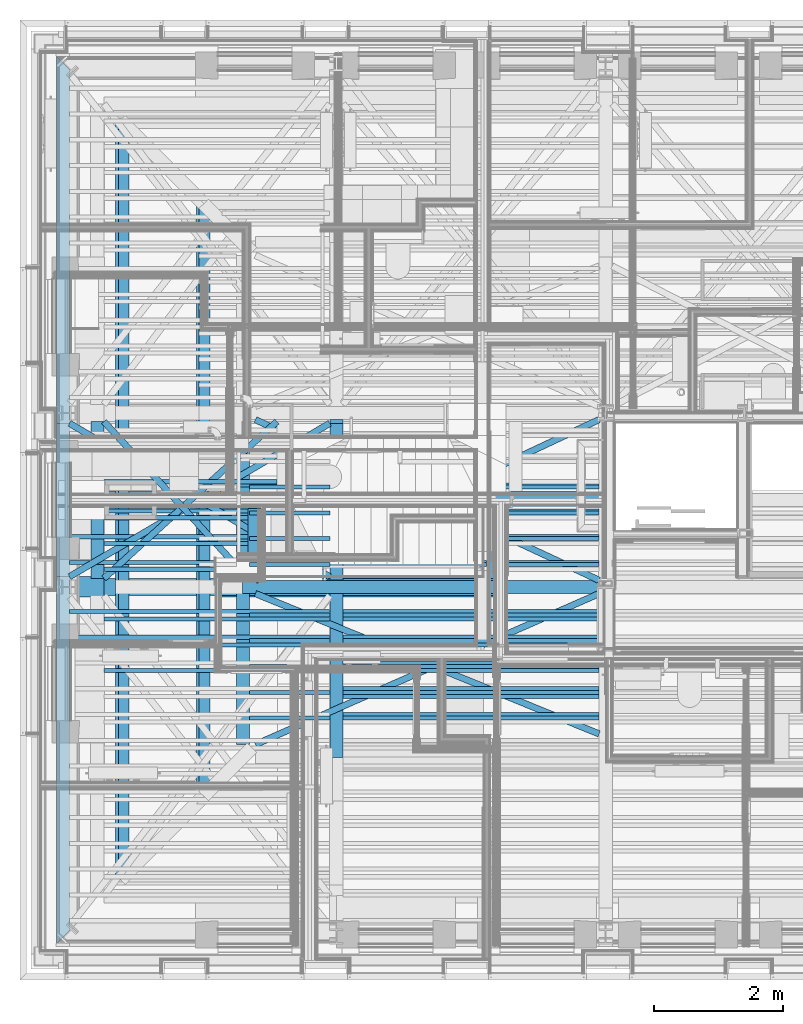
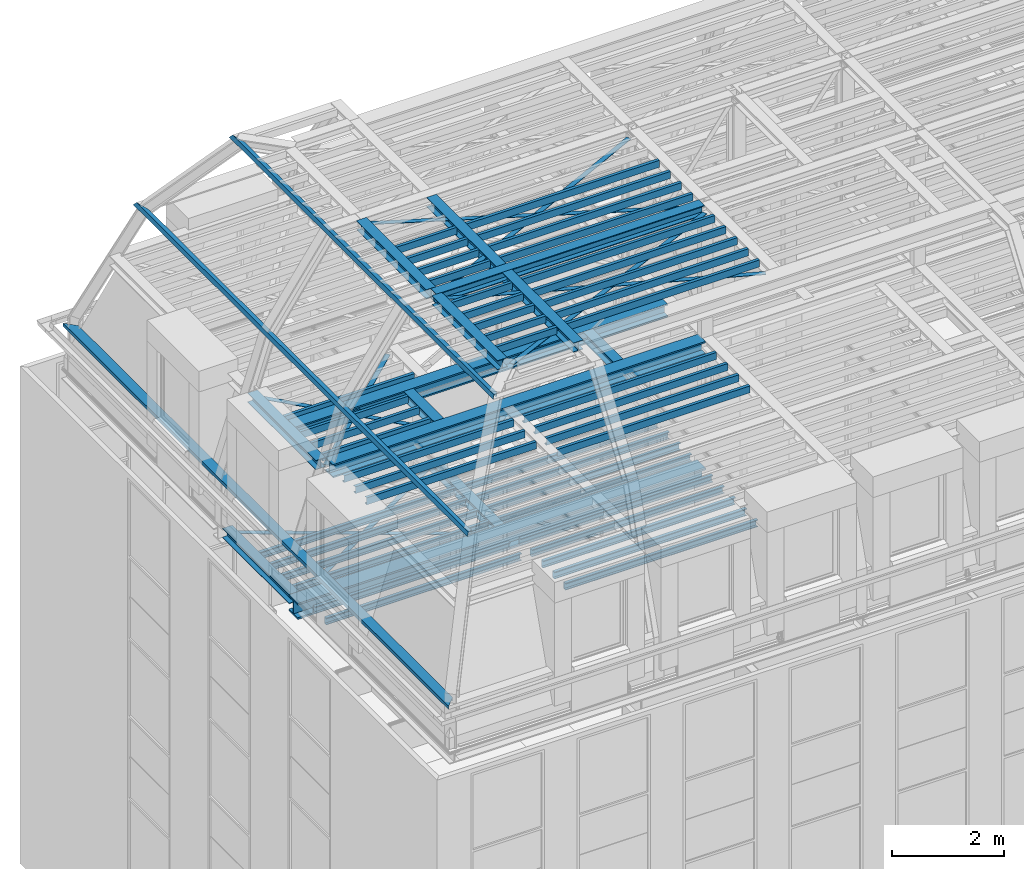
# One storey, part 4 of 183: 68 beams.
"""IFC2X3 building model written with IfcOpenShell, lengths in metres."""

from ifc_helpers import new_model, entity, si_unit, converted_unit, derived_unit, money_unit, direction, frame, frame_2d, origin_with_axes, place, context, subcontext, project, spatial, polyline, rectangle, outline, extrude, clip, halfspace, material, type_object, element, save


model = new_model("IFC2X3")

# Units and contexts
model_context = context("Model", 3, precision=1e-05, world=origin_with_axes(), true_north=direction((0.0, 1.0)))
body_context = subcontext(model_context, "Body", "Model", "MODEL_VIEW", scale=1.0)
ifc_project = project(units=[si_unit("LENGTHUNIT", "METRE"), si_unit("AREAUNIT", "SQUARE_METRE"), si_unit("VOLUMEUNIT", "CUBIC_METRE"), si_unit("ABSORBEDDOSEUNIT", "GRAY"), si_unit("AMOUNTOFSUBSTANCEUNIT", "MOLE"), si_unit("DOSEEQUIVALENTUNIT", "SIEVERT"), si_unit("ELECTRICCAPACITANCEUNIT", "FARAD"), si_unit("ELECTRICCHARGEUNIT", "COULOMB"), si_unit("ELECTRICCONDUCTANCEUNIT", "SIEMENS"), si_unit("ELECTRICCURRENTUNIT", "AMPERE"), si_unit("ELECTRICRESISTANCEUNIT", "OHM"), si_unit("ELECTRICVOLTAGEUNIT", "VOLT"), si_unit("ENERGYUNIT", "JOULE"), si_unit("FORCEUNIT", "NEWTON"), si_unit("FREQUENCYUNIT", "HERTZ"), si_unit("ILLUMINANCEUNIT", "LUX"), si_unit("INDUCTANCEUNIT", "HENRY"), si_unit("LUMINOUSFLUXUNIT", "LUMEN"), si_unit("LUMINOUSINTENSITYUNIT", "CANDELA"), si_unit("MAGNETICFLUXDENSITYUNIT", "TESLA"), si_unit("MAGNETICFLUXUNIT", "WEBER"), si_unit("MASSUNIT", "GRAM"), converted_unit("PLANEANGLEUNIT", "degree", entity("IfcReal", 0.0174532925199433), si_unit("PLANEANGLEUNIT", "RADIAN"), dimensions=[0, 0, 0, 0, 0, 0, 0]), si_unit("POWERUNIT", "WATT"), si_unit("PRESSUREUNIT", "PASCAL"), si_unit("RADIOACTIVITYUNIT", "BECQUEREL"), si_unit("SOLIDANGLEUNIT", "STERADIAN"), si_unit("THERMODYNAMICTEMPERATUREUNIT", "KELVIN"), si_unit("TIMEUNIT", "SECOND"), derived_unit("ACCELERATIONUNIT", [(si_unit("LENGTHUNIT", "METRE"), 1), (si_unit("TIMEUNIT", "SECOND"), -2)]), derived_unit("ANGULARVELOCITYUNIT", [(converted_unit("PLANEANGLEUNIT", "degree", entity("IfcReal", 0.0174532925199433), si_unit("PLANEANGLEUNIT", "RADIAN"), dimensions=[0, 0, 0, 0, 0, 0, 0]), 1), (si_unit("TIMEUNIT", "SECOND"), -1)]), derived_unit("CURVATUREUNIT", [(converted_unit("PLANEANGLEUNIT", "degree", entity("IfcReal", 0.0174532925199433), si_unit("PLANEANGLEUNIT", "RADIAN"), dimensions=[0, 0, 0, 0, 0, 0, 0]), 1), (si_unit("LENGTHUNIT", "METRE"), -1)]), derived_unit("DYNAMICVISCOSITYUNIT", [(si_unit("PRESSUREUNIT", "PASCAL"), 1), (si_unit("TIMEUNIT", "SECOND"), 1)]), derived_unit("HEATFLUXDENSITYUNIT", [(si_unit("POWERUNIT", "WATT"), 1), (si_unit("LENGTHUNIT", "METRE"), -2)]), derived_unit("HEATINGVALUEUNIT", [(si_unit("ENERGYUNIT", "JOULE"), 1), (si_unit("MASSUNIT", "GRAM"), -1)]), derived_unit("INTEGERCOUNTRATEUNIT", [(si_unit("TIMEUNIT", "SECOND"), -1)]), derived_unit("IONCONCENTRATIONUNIT", [(si_unit("MASSUNIT", "GRAM"), 1), (si_unit("VOLUMEUNIT", "CUBIC_METRE"), -1)]), derived_unit("ISOTHERMALMOISTURECAPACITYUNIT", [(si_unit("VOLUMEUNIT", "CUBIC_METRE"), 1), (si_unit("MASSUNIT", "GRAM"), -1)]), derived_unit("KINEMATICVISCOSITYUNIT", [(si_unit("AREAUNIT", "SQUARE_METRE"), 1), (si_unit("TIMEUNIT", "SECOND"), -1)]), derived_unit("LINEARFORCEUNIT", [(si_unit("FORCEUNIT", "NEWTON"), 1), (si_unit("LENGTHUNIT", "METRE"), -1)]), derived_unit("LINEARMOMENTUNIT", [(si_unit("FORCEUNIT", "NEWTON"), 1), (si_unit("LENGTHUNIT", "METRE"), -1)]), derived_unit("LINEARSTIFFNESSUNIT", [(si_unit("FORCEUNIT", "NEWTON"), 1), (si_unit("LENGTHUNIT", "METRE"), -1)]), derived_unit("LINEARVELOCITYUNIT", [(si_unit("LENGTHUNIT", "METRE"), 1), (si_unit("TIMEUNIT", "SECOND"), -1)]), derived_unit("LUMINOUSINTENSITYDISTRIBUTIONUNIT", [(si_unit("LUMINOUSINTENSITYUNIT", "CANDELA"), 1), (si_unit("LUMINOUSFLUXUNIT", "LUMEN"), -1)]), derived_unit("MASSDENSITYUNIT", [(si_unit("MASSUNIT", "GRAM"), 1), (si_unit("VOLUMEUNIT", "CUBIC_METRE"), -1)]), derived_unit("MASSFLOWRATEUNIT", [(si_unit("MASSUNIT", "GRAM"), 1), (si_unit("TIMEUNIT", "SECOND"), -1)]), derived_unit("MASSPERLENGTHUNIT", [(si_unit("MASSUNIT", "GRAM"), 1), (si_unit("LENGTHUNIT", "METRE"), -1)]), derived_unit("MODULUSOFELASTICITYUNIT", [(si_unit("FORCEUNIT", "NEWTON"), 1), (si_unit("AREAUNIT", "SQUARE_METRE"), -1)]), derived_unit("MODULUSOFLINEARSUBGRADEREACTIONUNIT", [(si_unit("FORCEUNIT", "NEWTON"), 1), (si_unit("LENGTHUNIT", "METRE"), -2)]), derived_unit("MODULUSOFROTATIONALSUBGRADEREACTIONUNIT", [(si_unit("FORCEUNIT", "NEWTON"), 1), (si_unit("LENGTHUNIT", "METRE"), 1)]), derived_unit("MODULUSOFSUBGRADEREACTIONUNIT", [(si_unit("FORCEUNIT", "NEWTON"), 1), (si_unit("VOLUMEUNIT", "CUBIC_METRE"), -1)]), derived_unit("MOISTUREDIFFUSIVITYUNIT", [(si_unit("VOLUMEUNIT", "CUBIC_METRE"), 1), (si_unit("TIMEUNIT", "SECOND"), -1)]), derived_unit("MOLECULARWEIGHTUNIT", [(si_unit("MASSUNIT", "GRAM"), 1), (si_unit("AMOUNTOFSUBSTANCEUNIT", "MOLE"), -1)]), derived_unit("PLANARFORCEUNIT", [(si_unit("FORCEUNIT", "NEWTON"), 1), (si_unit("LENGTHUNIT", "METRE"), -2)]), derived_unit("ROTATIONALFREQUENCYUNIT", [(si_unit("TIMEUNIT", "SECOND"), -1)]), derived_unit("ROTATIONALMASSUNIT", [(si_unit("MASSUNIT", "GRAM"), 1), (si_unit("LENGTHUNIT", "METRE"), 2)]), derived_unit("ROTATIONALSTIFFNESSUNIT", [(si_unit("FORCEUNIT", "NEWTON"), 1), (si_unit("LENGTHUNIT", "METRE"), 1), (converted_unit("PLANEANGLEUNIT", "degree", entity("IfcReal", 0.0174532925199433), si_unit("PLANEANGLEUNIT", "RADIAN"), dimensions=[0, 0, 0, 0, 0, 0, 0]), -1)]), derived_unit("SECTIONAREAINTEGRALUNIT", [(si_unit("LENGTHUNIT", "METRE"), 5)]), derived_unit("SECTIONMODULUSUNIT", [(si_unit("LENGTHUNIT", "METRE"), 3)]), derived_unit("SHEARMODULUSUNIT", [(si_unit("FORCEUNIT", "NEWTON"), 1), (si_unit("AREAUNIT", "SQUARE_METRE"), -1)]), derived_unit("SOUNDPOWERUNIT", [(si_unit("ENERGYUNIT", "JOULE"), 1), (si_unit("TIMEUNIT", "SECOND"), -1)]), derived_unit("SPECIFICHEATCAPACITYUNIT", [(si_unit("FORCEUNIT", "NEWTON"), 1), (si_unit("MASSUNIT", "GRAM"), -1), (si_unit("THERMODYNAMICTEMPERATUREUNIT", "KELVIN"), -1)]), derived_unit("TEMPERATUREGRADIENTUNIT", [(si_unit("THERMODYNAMICTEMPERATUREUNIT", "KELVIN"), 1), (si_unit("LENGTHUNIT", "METRE"), -1)]), derived_unit("THERMALADMITTANCEUNIT", [(si_unit("POWERUNIT", "WATT"), 1), (si_unit("AREAUNIT", "SQUARE_METRE"), -1), (si_unit("THERMODYNAMICTEMPERATUREUNIT", "KELVIN"), -1)]), derived_unit("THERMALCONDUCTANCEUNIT", [(si_unit("POWERUNIT", "WATT"), 1), (si_unit("LENGTHUNIT", "METRE"), -1), (si_unit("THERMODYNAMICTEMPERATUREUNIT", "KELVIN"), -1)]), derived_unit("THERMALEXPANSIONCOEFFICIENTUNIT", [(si_unit("THERMODYNAMICTEMPERATUREUNIT", "KELVIN"), -1)]), derived_unit("THERMALRESISTANCEUNIT", [(si_unit("AREAUNIT", "SQUARE_METRE"), 1), (si_unit("POWERUNIT", "WATT"), -1)]), derived_unit("THERMALTRANSMITTANCEUNIT", [(si_unit("POWERUNIT", "WATT"), 1), (si_unit("AREAUNIT", "SQUARE_METRE"), -1), (si_unit("THERMODYNAMICTEMPERATUREUNIT", "KELVIN"), -1)]), derived_unit("TORQUEUNIT", [(si_unit("FORCEUNIT", "NEWTON"), 1), (si_unit("LENGTHUNIT", "METRE"), 1)]), derived_unit("VAPORPERMEABILITYUNIT", [(si_unit("MASSUNIT", "GRAM"), 1), (si_unit("TIMEUNIT", "SECOND"), -1)]), derived_unit("VOLUMETRICFLOWRATEUNIT", [(si_unit("VOLUMEUNIT", "CUBIC_METRE"), 1), (si_unit("TIMEUNIT", "SECOND"), -1)]), derived_unit("WARPINGCONSTANTUNIT", [(si_unit("LENGTHUNIT", "METRE"), 6)]), derived_unit("WARPINGMOMENTUNIT", [(si_unit("FORCEUNIT", "NEWTON"), 1), (si_unit("LENGTHUNIT", "METRE"), 2)]), money_unit("GBP")], contexts=[model_context])

# Site, building, storey
site_placement = place(None, origin_with_axes())
site = spatial("IfcSite", under=ifc_project, at=site_placement, Name="Site", CompositionType="ELEMENT")
building_placement = place(site_placement, origin_with_axes())
building = spatial("IfcBuilding", under=site, at=building_placement, Name="Building01", CompositionType="ELEMENT")
storey_placement = place(building_placement, frame((0.0, 0.0, 5.15), z_axis=(0.0, 0.0, 1.0), x_axis=(1.0, 0.0, 0.0)))
storey = spatial("IfcBuildingStorey", under=building, at=storey_placement, Name="1F", CompositionType="ELEMENT", Elevation=5.15)

# Beams
ifc_material = material(Name="A_BSUK_Beams_Steel")
beam_type_1 = type_object("IfcBeamType", Name="A-Beams-Steel", PredefinedType="BEAM")
beam_1_placement = place(storey_placement, frame((0.56275, 8.6408, 9.5268), z_axis=(0.0, -1.0, 0.0), x_axis=(1.0, 0.0, 0.0)))
element("IfcBeam", 1, at=beam_1_placement, inside=storey, type_object=beam_type_1, material=ifc_material, Name="4F", ObjectType="A-Beams-Steel", context=body_context, shape_type="SweptSolid", body=[
    extrude(outline(polyline([(0.2036, 0.0), (0.2036, 0.011), (0.1054, 0.011), (0.1054, 0.1922), (0.2036, 0.1922), (0.2036, 0.2032), (0.0, 0.2032), (0.0, 0.1922), (0.0982, 0.1922), (0.0982, 0.011), (0.0, 0.011), (0.0, 0.0), (0.2036, 0.0)])), origin_with_axes(), (0.0, 0.0, 1.0), 2.3816),
])
beam_2_placement = place(storey_placement, frame((0.56, 5.9408, 9.3775), z_axis=(1.0, 0.0, 0.0), x_axis=(0.0, 1.0, 0.0)))
element("IfcBeam", 2, at=beam_2_placement, inside=storey, type_object=beam_type_1, material=ifc_material, Name="4F", ObjectType="A-Beams-Steel", context=body_context, shape_type="SweptSolid", body=[
    extrude(outline(polyline([(0.3184, 0.0), (0.3184, 0.0377), (0.1707, 0.0377), (0.1707, 0.3148), (0.3184, 0.3148), (0.3184, 0.3525), (0.0, 0.3525), (0.0, 0.3148), (0.1477, 0.3148), (0.1477, 0.0377), (0.0, 0.0377), (0.0, 0.0), (0.3184, 0.0)])), origin_with_axes(), (0.0, 0.0, 1.0), 8.42545),
])
beam_3_placement = place(storey_placement, frame((4.8082, 8.6408, 9.5268), z_axis=(0.0, -1.0, 0.0), x_axis=(1.0, 0.0, 0.0)))
element("IfcBeam", 3, at=beam_3_placement, inside=storey, type_object=beam_type_1, material=ifc_material, Name="4F", ObjectType="A-Beams-Steel", context=body_context, shape_type="SweptSolid", body=[
    extrude(outline(polyline([(0.2036, 0.0), (0.2036, 0.011), (0.1054, 0.011), (0.1054, 0.1922), (0.2036, 0.1922), (0.2036, 0.2032), (0.0, 0.2032), (0.0, 0.1922), (0.0982, 0.1922), (0.0982, 0.011), (0.0, 0.011), (0.0, 0.0), (0.2036, 0.0)])), origin_with_axes(), (0.0, 0.0, 1.0), 2.3816),
])
beam_4_placement = place(storey_placement, frame((1.0982, 8.667427, 12.2768), z_axis=(0.0, -1.0, 0.0), x_axis=(1.0, 0.0, 0.0)))
element("IfcBeam", 4, at=beam_4_placement, inside=storey, type_object=beam_type_1, material=ifc_material, Name="5F", ObjectType="A-Beams-Steel", context=body_context, shape_type="SweptSolid", body=[
    extrude(outline(polyline([(0.2036, 0.0), (0.2036, 0.011), (0.1054, 0.011), (0.1054, 0.1922), (0.2036, 0.1922), (0.2036, 0.2032), (0.0, 0.2032), (0.0, 0.1922), (0.0982, 0.1922), (0.0982, 0.011), (0.0, 0.011), (0.0, 0.0), (0.2036, 0.0)])), origin_with_axes(), (0.0, 0.0, 1.0), 2.4348),
])
for number, where, z_axis, x_axis, name in (
    (5, (3.5382, 7.3174, 12.2768), (0.0, -1.0, 0.0), (1.0, 0.0, 0.0), "5F"),
    (6, (7.2382, 7.3174, 12.2768), (0.0, -1.0, 0.0), (1.0, 0.0, 0.0), "5F"),
):
    element("IfcBeam", number, at=place(storey_placement, frame(where, z_axis=z_axis, x_axis=x_axis)), inside=storey, type_object=beam_type_1, material=ifc_material, Name=name, ObjectType="A-Beams-Steel", context=body_context, shape_type="SweptSolid", body=[
        extrude(outline(polyline([(0.2036, 0.0), (0.2036, 0.011), (0.1054, 0.011), (0.1054, 0.1922), (0.2036, 0.1922), (0.2036, 0.2032), (0.0, 0.2032), (0.0, 0.1922), (0.0982, 0.1922), (0.0982, 0.011), (0.0, 0.011), (0.0, 0.0), (0.2036, 0.0)])), origin_with_axes(), (0.0, 0.0, 1.0), 1.084773),
    ])
for number, where, z_axis, x_axis, name in (
    (7, (1.3032, 7.3174, 12.1909), (1.0, 0.0, 0.0), (0.0, 1.0, 0.0), "5F"),
    (8, (1.3018, 5.967427, 12.1909), (1.0, 0.0, 0.0), (0.0, 1.0, 0.0), "5F"),
):
    element("IfcBeam", number, at=place(storey_placement, frame(where, z_axis=z_axis, x_axis=x_axis)), inside=storey, type_object=beam_type_1, material=ifc_material, Name=name, ObjectType="A-Beams-Steel", context=body_context, shape_type="SweptSolid", body=[
        extrude(outline(polyline([(0.2652, 0.0), (0.2652, 0.0317), (0.1422, 0.0317), (0.1422, 0.2574), (0.2652, 0.2574), (0.2652, 0.2891), (0.0, 0.2891), (0.0, 0.2574), (0.123, 0.2574), (0.123, 0.0317), (0.0, 0.0317), (0.0, 0.0), (0.2652, 0.0)])), origin_with_axes(), (0.0, 0.0, 1.0), 7.685),
    ])
beam_5_placement = place(storey_placement, frame((4.808222, 8.6968, 15.2268), z_axis=(0.0, -1.0, 0.0), x_axis=(1.0, 0.0, 0.0)))
element("IfcBeam", 9, at=beam_5_placement, inside=storey, type_object=beam_type_1, material=ifc_material, Name="RP", ObjectType="A-Beams-Steel", context=body_context, shape_type="SweptSolid", body=[
    extrude(outline(polyline([(0.2036, 0.0), (0.2036, 0.011), (0.1054, 0.011), (0.1054, 0.1922), (0.2036, 0.1922), (0.2036, 0.2032), (0.0, 0.2032), (0.0, 0.1922), (0.0982, 0.1922), (0.0982, 0.011), (0.0, 0.011), (0.0, 0.0), (0.2036, 0.0)])), origin_with_axes(), (0.0, 0.0, 1.0), 2.49165),
])
beam_6_placement = place(storey_placement, frame((3.3612, 8.6968, 15.2268), z_axis=(0.0, -1.0, 0.0), x_axis=(1.0, 0.0, 0.0)))
element("IfcBeam", 10, at=beam_6_placement, inside=storey, type_object=beam_type_1, material=ifc_material, Name="RP", ObjectType="A-Beams-Steel", context=body_context, shape_type="SweptSolid", body=[
    extrude(outline(polyline([(0.2036, 0.0), (0.2036, 0.011), (0.1054, 0.011), (0.1054, 0.1922), (0.2036, 0.1922), (0.2036, 0.2032), (0.0, 0.2032), (0.0, 0.1922), (0.0982, 0.1922), (0.0982, 0.011), (0.0, 0.011), (0.0, 0.0), (0.2036, 0.0)])), origin_with_axes(), (0.0, 0.0, 1.0), 2.4936),
])
beam_7_placement = place(storey_placement, frame((4.808222, 5.9968, 15.2268), z_axis=(0.0, -1.0, 0.0), x_axis=(1.0, 0.0, 0.0)))
element("IfcBeam", 11, at=beam_7_placement, inside=storey, type_object=beam_type_1, material=ifc_material, Name="RP", ObjectType="A-Beams-Steel", context=body_context, shape_type="SweptSolid", body=[
    extrude(outline(polyline([(0.2036, 0.0), (0.2036, 0.011), (0.1054, 0.011), (0.1054, 0.1922), (0.2036, 0.1922), (0.2036, 0.2032), (0.0, 0.2032), (0.0, 0.1922), (0.0982, 0.1922), (0.0982, 0.011), (0.0, 0.011), (0.0, 0.0), (0.2036, 0.0)])), origin_with_axes(), (0.0, 0.0, 1.0), 2.546),
])
beam_8_placement = place(storey_placement, frame((3.3612, 5.9968, 15.2268), z_axis=(0.0, -1.0, 0.0), x_axis=(1.0, 0.0, 0.0)))
element("IfcBeam", 12, at=beam_8_placement, inside=storey, type_object=beam_type_1, material=ifc_material, Name="RP", ObjectType="A-Beams-Steel", context=body_context, shape_type="SweptSolid", body=[
    extrude(outline(polyline([(0.2036, 0.0), (0.2036, 0.011), (0.1054, 0.011), (0.1054, 0.1922), (0.2036, 0.1922), (0.2036, 0.2032), (0.0, 0.2032), (0.0, 0.1922), (0.0982, 0.1922), (0.0982, 0.011), (0.0, 0.011), (0.0, 0.0), (0.2036, 0.0)])), origin_with_axes(), (0.0, 0.0, 1.0), 2.3424),
])
beam_9_placement = place(storey_placement, frame((3.4512, 5.9968, 15.2142), z_axis=(1.0, 0.0, 0.0), x_axis=(0.0, 1.0, 0.0)))
element("IfcBeam", 13, at=beam_9_placement, inside=storey, type_object=beam_type_1, material=ifc_material, Name="RP", ObjectType="A-Beams-Steel", context=body_context, shape_type="SweptSolid", body=[
    extrude(outline(polyline([(0.2064, 0.0), (0.2064, 0.0173), (0.1082, 0.0173), (0.1082, 0.1985), (0.2064, 0.1985), (0.2064, 0.2158), (0.0, 0.2158), (0.0, 0.1985), (0.0982, 0.1985), (0.0982, 0.0173), (0.0, 0.0173), (0.0, 0.0), (0.2064, 0.0)])), origin_with_axes(), (0.0, 0.0, 1.0), 5.537),
])
for number, where, z_axis, x_axis, name in (
    (14, (0.740967, 8.597722, 9.568), (0.86155752, -0.50765996, 0.0), (0.50765996, 0.86155752, 0.0), "4F"),
    (15, (4.782817, 8.683878, 9.558), (-0.86155752, -0.50765996, 0.0), (0.50765996, -0.86155752, 0.0), "4F"),
):
    element("IfcBeam", number, at=place(storey_placement, frame(where, z_axis=z_axis, x_axis=x_axis)), inside=storey, type_object=beam_type_1, material=ifc_material, Name=name, ObjectType="A-Beams-Steel", context=body_context, shape_type="SweptSolid", body=[
        extrude(rectangle(XDim=0.01, YDim=0.1, at=frame_2d((0.05, 0.005), x_axis=(0.0, 1.0))), origin_with_axes(), (0.0, 0.0, 1.0), 4.691329),
    ])
beam_10_placement = place(storey_placement, frame((1.266366, 8.633615, 12.318), z_axis=(0.67623414, -0.73668677, 0.0), x_axis=(0.73668677, 0.67623414, 0.0)))
element("IfcBeam", 16, at=beam_10_placement, inside=storey, type_object=beam_type_1, material=ifc_material, Name="5F", ObjectType="A-Beams-Steel", context=body_context, shape_type="SweptSolid", body=[
    extrude(rectangle(XDim=0.01, YDim=0.1, at=frame_2d((0.05, 0.005), x_axis=(0.0, 1.0))), origin_with_axes(), (0.0, 0.0, 1.0), 3.305068),
])
beam_11_placement = place(storey_placement, frame((3.954622, 8.704474, 12.308), z_axis=(-0.74095263, -0.67155729, 0.0), x_axis=(0.67155729, -0.74095263, 0.0)))
element("IfcBeam", 17, at=beam_11_placement, inside=storey, type_object=beam_type_1, material=ifc_material, Name="5F", ObjectType="A-Beams-Steel", context=body_context, shape_type="SweptSolid", body=[
    extrude(rectangle(XDim=0.01, YDim=0.1, at=frame_2d((0.05, 0.005), x_axis=(0.0, 1.0))), origin_with_axes(), (0.0, 0.0, 1.0), 3.625603),
])
beam_12_placement = place(storey_placement, frame((3.675988, 6.157911, 15.258), z_axis=(0.90577614, 0.42375651, 0.0), x_axis=(-0.42375651, 0.90577614, 0.0)))
element("IfcBeam", 18, at=beam_12_placement, inside=storey, type_object=beam_type_1, material=ifc_material, Name="RP", ObjectType="A-Beams-Steel", context=body_context, shape_type="SweptSolid", body=[
    extrude(rectangle(XDim=0.01, YDim=0.1, at=frame_2d((0.05, 0.005), x_axis=(0.0, 1.0))), origin_with_axes(), (0.0, 0.0, 1.0), 5.884511),
])
beam_13_placement = place(storey_placement, frame((3.633623, 8.651506, 15.268), z_axis=(0.90587829, -0.4235381, 0.0), x_axis=(0.4235381, 0.90587829, 0.0)))
element("IfcBeam", 19, at=beam_13_placement, inside=storey, type_object=beam_type_1, material=ifc_material, Name="RP", ObjectType="A-Beams-Steel", context=body_context, shape_type="SweptSolid", body=[
    extrude(rectangle(XDim=0.01, YDim=0.1, at=frame_2d((0.05, 0.005), x_axis=(0.0, 1.0))), origin_with_axes(), (0.0, 0.0, 1.0), 5.887546),
])
beam_14_placement = place(storey_placement, frame((3.674906, 3.608621, 15.258), z_axis=(0.91558669, 0.40212065, 0.0), x_axis=(-0.40212065, 0.91558669, 0.0)))
element("IfcBeam", 20, at=beam_14_placement, inside=storey, type_object=beam_type_1, material=ifc_material, Name="RP", ObjectType="A-Beams-Steel", context=body_context, shape_type="SweptSolid", body=[
    extrude(rectangle(XDim=0.01, YDim=0.1, at=frame_2d((0.05, 0.005), x_axis=(0.0, 1.0))), origin_with_axes(), (0.0, 0.0, 1.0), 5.825117),
])
beam_15_placement = place(storey_placement, frame((3.6359, 5.95051, 15.268), z_axis=(0.925805, -0.37800146, 0.0), x_axis=(0.37800146, 0.925805, 0.0)))
element("IfcBeam", 21, at=beam_15_placement, inside=storey, type_object=beam_type_1, material=ifc_material, Name="RP", ObjectType="A-Beams-Steel", context=body_context, shape_type="SweptSolid", body=[
    extrude(rectangle(XDim=0.01, YDim=0.1, at=frame_2d((0.05, 0.005), x_axis=(0.0, 1.0))), origin_with_axes(), (0.0, 0.0, 1.0), 5.760824),
])
beam_16_placement = place(storey_placement, frame((0.7664, 0.5613, 10.748931), z_axis=(0.0, 1.0, 0.0), x_axis=(0.0, 0.0, -1.0)))
element("IfcBeam", 22, at=beam_16_placement, inside=storey, type_object=beam_type_1, material=ifc_material, Name="4F", ObjectType="A-Beams-Steel", context=body_context, shape_type="Clipping", body=[
    clip(clip(extrude(outline(polyline([(0.075, 0.0), (0.075, 0.012), (0.006, 0.012), (0.006, 0.188), (0.075, 0.188), (0.075, 0.2), (0.0, 0.2), (0.0, 0.0), (0.075, 0.0)])), origin_with_axes(), (0.0, 0.0, 1.0), 13.7774), halfspace(frame((0.0, -6.7887, 6.7887), z_axis=(0.0, 0.70710678, -0.70710678), x_axis=(-1.0, 0.0, 0.0)), True)), halfspace(frame((0.0, 0.1, 0.1), z_axis=(0.0, 0.70710678, 0.70710678), x_axis=(-1.0, 0.0, 0.0)), True)),
])
beam_17_placement = place(storey_placement, frame((1.689327, 1.477374, 13.514975), z_axis=(0.0, 1.0, 0.0), x_axis=(-0.57351196, 0.0, -0.81919718)))
element("IfcBeam", 23, at=beam_17_placement, inside=storey, type_object=beam_type_1, material=ifc_material, Name="5F", ObjectType="A-Beams-Steel", context=body_context, shape_type="Clipping", body=[
    clip(clip(extrude(outline(polyline([(0.075, 0.0), (0.075, 0.012), (0.006, 0.012), (0.006, 0.188), (0.075, 0.188), (0.075, 0.2), (0.0, 0.2), (0.0, 0.0), (0.075, 0.0)])), origin_with_axes(), (0.0, 0.0, 1.0), 11.945253), halfspace(frame((0.059316, 0.084727, 0.103426), z_axis=(0.4055342, 0.57925988, 0.70710678), x_axis=(0.86746356, 0.0, -0.49750073)), True)), halfspace(frame((-3.366056, -4.808032, 5.8692), z_axis=(0.4055342, 0.57925988, -0.70710678), x_axis=(-0.86746356, 0.0, -0.49750073)), True)),
])
beam_18_placement = place(storey_placement, frame((2.945234, 2.733282, 15.308898), z_axis=(0.0, 1.0, 0.0), x_axis=(-0.57351196, 0.0, -0.81919718)))
element("IfcBeam", 24, at=beam_18_placement, inside=storey, type_object=beam_type_1, material=ifc_material, Name="RP", ObjectType="A-Beams-Steel", context=body_context, shape_type="Clipping", body=[
    clip(clip(extrude(outline(polyline([(0.075, 0.0), (0.075, 0.012), (0.006, 0.012), (0.006, 0.188), (0.075, 0.188), (0.075, 0.2), (0.0, 0.2), (0.0, 0.0), (0.075, 0.0)])), origin_with_axes(), (0.0, 0.0, 1.0), 9.433437), halfspace(frame((0.059316, 0.084727, 0.103426), z_axis=(0.4055342, 0.57925988, 0.70710678), x_axis=(0.86746356, 0.0, -0.49750073)), True)), halfspace(frame((-2.645778, -3.779196, 4.613292), z_axis=(0.4055342, 0.57925988, -0.70710678), x_axis=(-0.86746356, 0.0, -0.49750073)), True)),
])
beam_type_2 = type_object("IfcBeamType", Name="SHE_A-Beams-Steel-Purlin_150m15", PredefinedType="BEAM")
for number, where, z_axis, x_axis, name in (
    (25, (8.98545, 4.152, 9.578), (-1.0, 0.0, 0.0), (0.0, -1.0, 0.0), "4F"),
    (26, (8.98545, 4.552, 9.578), (-1.0, 0.0, 0.0), (0.0, -1.0, 0.0), "4F"),
    (27, (8.98545, 4.952, 9.578), (-1.0, 0.0, 0.0), (0.0, -1.0, 0.0), "4F"),
    (28, (8.98545, 5.352, 9.578), (-1.0, 0.0, 0.0), (0.0, -1.0, 0.0), "4F"),
    (29, (8.98545, 5.752, 9.578), (-1.0, 0.0, 0.0), (0.0, -1.0, 0.0), "4F"),
):
    element("IfcBeam", number, at=place(storey_placement, frame(where, z_axis=z_axis, x_axis=x_axis)), inside=storey, type_object=beam_type_2, material=ifc_material, Name=name, ObjectType="SHE_A-Beams-Steel-Purlin_150m15", context=body_context, shape_type="SweptSolid", body=[
        extrude(outline(polyline([(0.064, 0.0), (0.064, 0.0155), (0.0625, 0.0155), (0.0625, 0.0015), (0.0015, 0.0015), (0.0015, 0.1505), (0.0625, 0.1505), (0.0625, 0.1365), (0.064, 0.1365), (0.064, 0.152), (0.0, 0.152), (0.0, 0.0), (0.064, 0.0)])), origin_with_axes(), (0.0, 0.0, 1.0), 3.9709),
    ])
for number, where, z_axis, x_axis, name in (
    (30, (1.3032, 4.7698, 12.328), (1.0, 0.0, 0.0), (0.0, 1.0, 0.0), "5F"),
    (31, (1.3032, 5.1698, 12.328), (1.0, 0.0, 0.0), (0.0, 1.0, 0.0), "5F"),
    (32, (1.3032, 5.5698, 12.328), (1.0, 0.0, 0.0), (0.0, 1.0, 0.0), "5F"),
):
    element("IfcBeam", number, at=place(storey_placement, frame(where, z_axis=z_axis, x_axis=x_axis)), inside=storey, type_object=beam_type_2, material=ifc_material, Name=name, ObjectType="SHE_A-Beams-Steel-Purlin_150m15", context=body_context, shape_type="SweptSolid", body=[
        extrude(outline(polyline([(0.064, 0.0), (0.064, 0.0155), (0.0625, 0.0155), (0.0625, 0.0015), (0.0015, 0.0015), (0.0015, 0.1505), (0.0625, 0.1505), (0.0625, 0.1365), (0.064, 0.1365), (0.064, 0.152), (0.0, 0.152), (0.0, 0.0), (0.064, 0.0)])), origin_with_axes(), (0.0, 0.0, 1.0), 3.5036),
    ])
for number, where, z_axis, x_axis, name in (
    (33, (4.80545, 5.352, 9.578), (-1.0, 0.0, 0.0), (0.0, -1.0, 0.0), "4F"),
    (34, (4.80545, 5.752, 9.578), (-1.0, 0.0, 0.0), (0.0, -1.0, 0.0), "4F"),
):
    element("IfcBeam", number, at=place(storey_placement, frame(where, z_axis=z_axis, x_axis=x_axis)), inside=storey, type_object=beam_type_2, material=ifc_material, Name=name, ObjectType="SHE_A-Beams-Steel-Purlin_150m15", context=body_context, shape_type="SweptSolid", body=[
        extrude(outline(polyline([(0.064, 0.0), (0.064, 0.0155), (0.0625, 0.0155), (0.0625, 0.0015), (0.0015, 0.0015), (0.0015, 0.1505), (0.0625, 0.1505), (0.0625, 0.1365), (0.064, 0.1365), (0.064, 0.152), (0.0, 0.152), (0.0, 0.0), (0.064, 0.0)])), origin_with_axes(), (0.0, 0.0, 1.0), 4.03635),
    ])
for number, where, z_axis, x_axis, name in (
    (35, (3.5648, 4.0328, 15.278), (1.0, 0.0, 0.0), (0.0, 1.0, 0.0), "RP"),
    (36, (3.5648, 4.4328, 15.278), (1.0, 0.0, 0.0), (0.0, 1.0, 0.0), "RP"),
    (37, (3.5648, 4.8328, 15.278), (1.0, 0.0, 0.0), (0.0, 1.0, 0.0), "RP"),
    (38, (3.5648, 5.2328, 15.278), (1.0, 0.0, 0.0), (0.0, 1.0, 0.0), "RP"),
    (39, (3.5648, 5.6328, 15.278), (1.0, 0.0, 0.0), (0.0, 1.0, 0.0), "RP"),
    (40, (3.5648, 6.418, 15.278), (1.0, 0.0, 0.0), (0.0, 1.0, 0.0), "RP"),
    (41, (3.5648, 6.818, 15.278), (1.0, 0.0, 0.0), (0.0, 1.0, 0.0), "RP"),
    (42, (3.5648, 7.218, 15.278), (1.0, 0.0, 0.0), (0.0, 1.0, 0.0), "RP"),
    (43, (3.5648, 7.618, 15.278), (1.0, 0.0, 0.0), (0.0, 1.0, 0.0), "RP"),
):
    element("IfcBeam", number, at=place(storey_placement, frame(where, z_axis=z_axis, x_axis=x_axis)), inside=storey, type_object=beam_type_2, material=ifc_material, Name=name, ObjectType="SHE_A-Beams-Steel-Purlin_150m15", context=body_context, shape_type="SweptSolid", body=[
        extrude(outline(polyline([(0.064, 0.0), (0.064, 0.0155), (0.0625, 0.0155), (0.0625, 0.0015), (0.0015, 0.0015), (0.0015, 0.1505), (0.0625, 0.1505), (0.0625, 0.1365), (0.064, 0.1365), (0.064, 0.152), (0.0, 0.152), (0.0, 0.0), (0.064, 0.0)])), origin_with_axes(), (0.0, 0.0, 1.0), 1.243422),
    ])
for number, where, z_axis, x_axis, name in (
    (44, (8.98545, 6.512, 9.578), (-1.0, 0.0, 0.0), (0.0, -1.0, 0.0), "4F"),
    (45, (8.98545, 6.912, 9.578), (-1.0, 0.0, 0.0), (0.0, -1.0, 0.0), "4F"),
):
    element("IfcBeam", number, at=place(storey_placement, frame(where, z_axis=z_axis, x_axis=x_axis)), inside=storey, type_object=beam_type_2, material=ifc_material, Name=name, ObjectType="SHE_A-Beams-Steel-Purlin_150m15", context=body_context, shape_type="SweptSolid", body=[
        extrude(outline(polyline([(0.064, 0.0), (0.064, 0.0155), (0.0625, 0.0155), (0.0625, 0.0015), (0.0015, 0.0015), (0.0015, 0.1505), (0.0625, 0.1505), (0.0625, 0.1365), (0.064, 0.1365), (0.064, 0.152), (0.0, 0.152), (0.0, 0.0), (0.064, 0.0)])), origin_with_axes(), (0.0, 0.0, 1.0), 3.97365),
    ])
for number, where, z_axis, x_axis, name in (
    (46, (4.8082, 6.512, 9.578), (-1.0, 0.0, 0.0), (0.0, -1.0, 0.0), "4F"),
    (47, (4.8082, 6.912, 9.578), (-1.0, 0.0, 0.0), (0.0, -1.0, 0.0), "4F"),
):
    element("IfcBeam", number, at=place(storey_placement, frame(where, z_axis=z_axis, x_axis=x_axis)), inside=storey, type_object=beam_type_2, material=ifc_material, Name=name, ObjectType="SHE_A-Beams-Steel-Purlin_150m15", context=body_context, shape_type="SweptSolid", body=[
        extrude(outline(polyline([(0.064, 0.0), (0.064, 0.0155), (0.0625, 0.0155), (0.0625, 0.0015), (0.0015, 0.0015), (0.0015, 0.1505), (0.0625, 0.1505), (0.0625, 0.1365), (0.064, 0.1365), (0.064, 0.152), (0.0, 0.152), (0.0, 0.0), (0.064, 0.0)])), origin_with_axes(), (0.0, 0.0, 1.0), 4.04185),
    ])
beam_19_placement = place(storey_placement, frame((8.98545, 7.311984, 9.578), z_axis=(-1.0, 0.0, 0.0), x_axis=(0.0, -1.0, 0.0)))
element("IfcBeam", 48, at=beam_19_placement, inside=storey, type_object=beam_type_2, material=ifc_material, Name="4F", ObjectType="SHE_A-Beams-Steel-Purlin_150m15", context=body_context, shape_type="SweptSolid", body=[
    extrude(outline(polyline([(0.064, 0.0), (0.064, 0.0155), (0.0625, 0.0155), (0.0625, 0.0015), (0.0015, 0.0015), (0.0015, 0.1505), (0.0625, 0.1505), (0.0625, 0.1365), (0.064, 0.1365), (0.064, 0.152), (0.0, 0.152), (0.0, 0.0), (0.064, 0.0)])), origin_with_axes(), (0.0, 0.0, 1.0), 3.97365),
])
beam_20_placement = place(storey_placement, frame((4.8082, 7.311984, 9.578), z_axis=(-1.0, 0.0, 0.0), x_axis=(0.0, -1.0, 0.0)))
element("IfcBeam", 49, at=beam_20_placement, inside=storey, type_object=beam_type_2, material=ifc_material, Name="4F", ObjectType="SHE_A-Beams-Steel-Purlin_150m15", context=body_context, shape_type="SweptSolid", body=[
    extrude(outline(polyline([(0.064, 0.0), (0.064, 0.0155), (0.0625, 0.0155), (0.0625, 0.0015), (0.0015, 0.0015), (0.0015, 0.1505), (0.0625, 0.1505), (0.0625, 0.1365), (0.064, 0.1365), (0.064, 0.152), (0.0, 0.152), (0.0, 0.0), (0.064, 0.0)])), origin_with_axes(), (0.0, 0.0, 1.0), 4.04185),
])
beam_21_placement = place(storey_placement, frame((8.98545, 7.711968, 9.578), z_axis=(-1.0, 0.0, 0.0), x_axis=(0.0, -1.0, 0.0)))
element("IfcBeam", 50, at=beam_21_placement, inside=storey, type_object=beam_type_2, material=ifc_material, Name="4F", ObjectType="SHE_A-Beams-Steel-Purlin_150m15", context=body_context, shape_type="SweptSolid", body=[
    extrude(outline(polyline([(0.064, 0.0), (0.064, 0.0155), (0.0625, 0.0155), (0.0625, 0.0015), (0.0015, 0.0015), (0.0015, 0.1505), (0.0625, 0.1505), (0.0625, 0.1365), (0.064, 0.1365), (0.064, 0.152), (0.0, 0.152), (0.0, 0.0), (0.064, 0.0)])), origin_with_axes(), (0.0, 0.0, 1.0), 3.97365),
])
beam_22_placement = place(storey_placement, frame((4.8082, 7.711968, 9.578), z_axis=(-1.0, 0.0, 0.0), x_axis=(0.0, -1.0, 0.0)))
element("IfcBeam", 51, at=beam_22_placement, inside=storey, type_object=beam_type_2, material=ifc_material, Name="4F", ObjectType="SHE_A-Beams-Steel-Purlin_150m15", context=body_context, shape_type="SweptSolid", body=[
    extrude(outline(polyline([(0.064, 0.0), (0.064, 0.0155), (0.0625, 0.0155), (0.0625, 0.0015), (0.0015, 0.0015), (0.0015, 0.1505), (0.0625, 0.1505), (0.0625, 0.1365), (0.064, 0.1365), (0.064, 0.152), (0.0, 0.152), (0.0, 0.0), (0.064, 0.0)])), origin_with_axes(), (0.0, 0.0, 1.0), 4.04185),
])
for number, where, z_axis, x_axis, name in (
    (52, (5.0132, 4.3698, 12.328), (1.0, 0.0, 0.0), (0.0, 1.0, 0.0), "5F"),
    (53, (5.0132, 5.5698, 12.328), (1.0, 0.0, 0.0), (0.0, 1.0, 0.0), "5F"),
    (54, (5.0132, 5.1698, 12.328), (1.0, 0.0, 0.0), (0.0, 1.0, 0.0), "5F"),
    (55, (5.0132, 4.7698, 12.328), (1.0, 0.0, 0.0), (0.0, 1.0, 0.0), "5F"),
):
    element("IfcBeam", number, at=place(storey_placement, frame(where, z_axis=z_axis, x_axis=x_axis)), inside=storey, type_object=beam_type_2, material=ifc_material, Name=name, ObjectType="SHE_A-Beams-Steel-Purlin_150m15", context=body_context, shape_type="SweptSolid", body=[
        extrude(outline(polyline([(0.064, 0.0), (0.064, 0.0155), (0.0625, 0.0155), (0.0625, 0.0015), (0.0015, 0.0015), (0.0015, 0.1505), (0.0625, 0.1505), (0.0625, 0.1365), (0.064, 0.1365), (0.064, 0.152), (0.0, 0.152), (0.0, 0.0), (0.064, 0.0)])), origin_with_axes(), (0.0, 0.0, 1.0), 3.9736),
    ])
beam_23_placement = place(storey_placement, frame((1.3018, 7.700627, 12.328), z_axis=(1.0, 0.0, 0.0), x_axis=(0.0, 1.0, 0.0)))
element("IfcBeam", 56, at=beam_23_placement, inside=storey, type_object=beam_type_2, material=ifc_material, Name="5F", ObjectType="SHE_A-Beams-Steel-Purlin_150m15", context=body_context, shape_type="SweptSolid", body=[
    extrude(outline(polyline([(0.064, 0.0), (0.064, 0.0155), (0.0625, 0.0155), (0.0625, 0.0015), (0.0015, 0.0015), (0.0015, 0.1505), (0.0625, 0.1505), (0.0625, 0.1365), (0.064, 0.1365), (0.064, 0.152), (0.0, 0.152), (0.0, 0.0), (0.064, 0.0)])), origin_with_axes(), (0.0, 0.0, 1.0), 2.6864),
])
for number, where, z_axis, x_axis, name in (
    (57, (1.3018, 6.3434, 12.328), (1.0, 0.0, 0.0), (0.0, 0.0, 1.0), "5F"),
    (58, (1.3018, 6.7434, 12.328), (1.0, 0.0, 0.0), (0.0, 0.0, 1.0), "5F"),
    (59, (1.3018, 7.1434, 12.328), (1.0, 0.0, 0.0), (0.0, 0.0, 1.0), "5F"),
):
    element("IfcBeam", number, at=place(storey_placement, frame(where, z_axis=z_axis, x_axis=x_axis)), inside=storey, type_object=beam_type_2, material=ifc_material, Name=name, ObjectType="SHE_A-Beams-Steel-Purlin_150m15", context=body_context, shape_type="SweptSolid", body=[
        extrude(outline(polyline([(0.152, 0.0), (0.152, -0.064), (0.1365, -0.064), (0.1365, -0.0625), (0.1505, -0.0625), (0.1505, -0.0015), (0.0015, -0.0015), (0.0015, -0.0625), (0.0155, -0.0625), (0.0155, -0.064), (0.0, -0.064), (0.0, 0.0), (0.152, 0.0)])), origin_with_axes(), (0.0, 0.0, 1.0), 2.2364),
    ])
for number, where, z_axis, x_axis, name in (
    (60, (5.011822, 4.0328, 15.278), (1.0, 0.0, 0.0), (0.0, 1.0, 0.0), "RP"),
    (61, (5.011822, 4.4328, 15.278), (1.0, 0.0, 0.0), (0.0, 1.0, 0.0), "RP"),
    (62, (5.011822, 4.8328, 15.278), (1.0, 0.0, 0.0), (0.0, 1.0, 0.0), "RP"),
    (63, (5.011822, 5.2328, 15.278), (1.0, 0.0, 0.0), (0.0, 1.0, 0.0), "RP"),
    (64, (5.011822, 5.6328, 15.278), (1.0, 0.0, 0.0), (0.0, 1.0, 0.0), "RP"),
    (65, (5.011822, 6.418, 15.278), (1.0, 0.0, 0.0), (0.0, 1.0, 0.0), "RP"),
    (66, (5.011822, 6.818, 15.278), (1.0, 0.0, 0.0), (0.0, 1.0, 0.0), "RP"),
    (67, (5.011822, 7.218, 15.278), (1.0, 0.0, 0.0), (0.0, 1.0, 0.0), "RP"),
    (68, (5.011822, 7.618, 15.278), (1.0, 0.0, 0.0), (0.0, 1.0, 0.0), "RP"),
):
    element("IfcBeam", number, at=place(storey_placement, frame(where, z_axis=z_axis, x_axis=x_axis)), inside=storey, type_object=beam_type_2, material=ifc_material, Name=name, ObjectType="SHE_A-Beams-Steel-Purlin_150m15", context=body_context, shape_type="SweptSolid", body=[
        extrude(outline(polyline([(0.064, 0.0), (0.064, 0.0155), (0.0625, 0.0155), (0.0625, 0.0015), (0.0015, 0.0015), (0.0015, 0.1505), (0.0625, 0.1505), (0.0625, 0.1365), (0.064, 0.1365), (0.064, 0.152), (0.0, 0.152), (0.0, 0.0), (0.064, 0.0)])), origin_with_axes(), (0.0, 0.0, 1.0), 3.976378),
    ])

save(model, "model.ifc")
